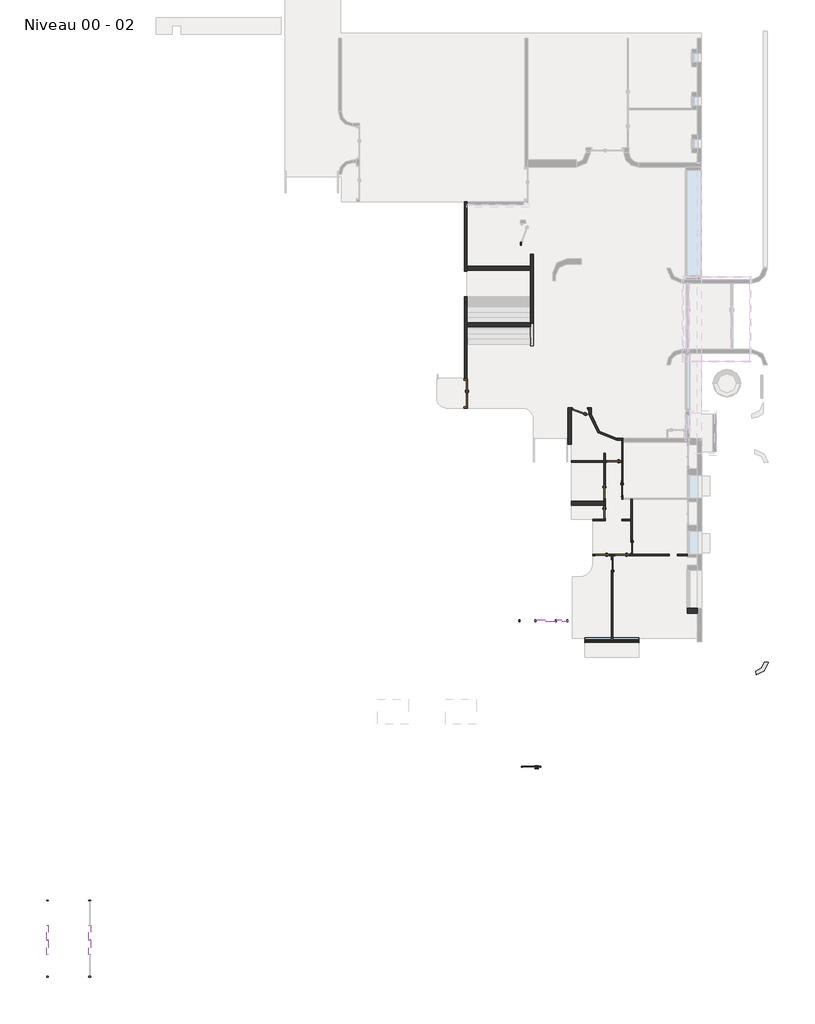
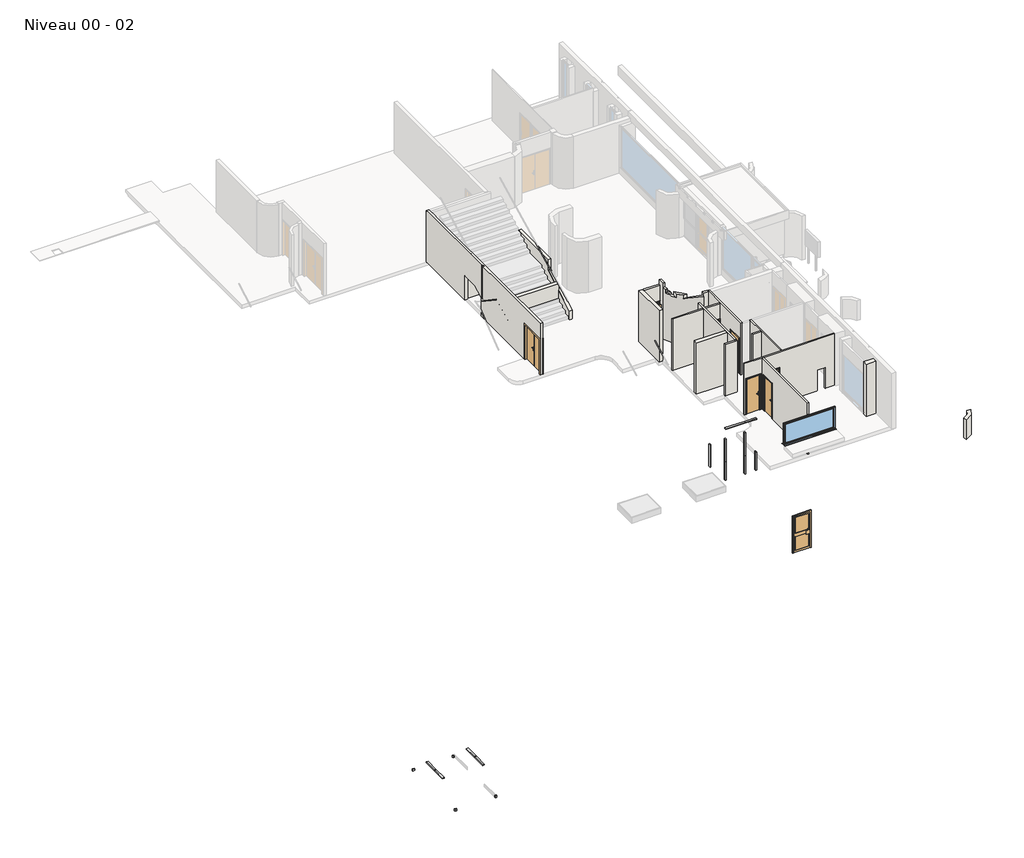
# One storey, part 1 of 6: 22 walls, 16 members, 11 doors, 1 window.
"""IFC4 building model written with IfcOpenShell, lengths in millimetres."""

from ifc_helpers import new_model, si_unit, point, frame, frame_2d, origin, place, context, project, spatial, polyline, circle_curve, trimmed, segment, composite_curve, outline, extrude, faceted_brep, transform, mapped, element, save
from ifc_brep_helpers import plane_surface, cylinder_surface, revolved_surface, advanced_brep
from components import door_0234ae46, door_50a5e481, door_d65dadfb, door_9741cc86, door_510859a6, door_0_93m_x_2_10m_03cb1a60, double_r_1_43m_x_2_04m_e512b263, meneau_rectangulaire_50_x_100mm_ef76ff4d, meneau_rectangulaire_50_x_100mm_260a92d2, meneau_rectangulaire_50_x_100mm_9988052a, meneau_rectangulaire_50_x_100mm_9c2ee2e1, meneau_rectangulaire_50_x_100mm_a95d30d4, meneau_rectangulaire_50_x_100mm_43c9efb0, meneau_rectangulaire_50_x_100mm_3de90236, meneau_rectangulaire_50_x_100mm_75cd286d, meneau_rectangulaire_50_x_100mm_6acf6161, meneau_rectangulaire_50_x_100mm_84950527, window_282_x_125_cm_d0343028

model = new_model("IFC4")

# Units and contexts
model_context = context("Model", 3, world=origin())
ifc_project = project(units=[si_unit("LENGTHUNIT", "METRE", prefix="MILLI")], contexts=[model_context])

# Site, building, storey
site = spatial("IfcSite", under=ifc_project)
building = spatial("IfcBuilding", under=site)
storey = spatial("IfcBuildingStorey", under=building, Name="Niveau 00 - 02", Elevation=893.3082742)

# Doors
placement = place(None, origin())
door_shape = door_0234ae46(model_context)
element("IfcDoor", 1, ObjectType="@_Int. Simple : @_PP (0.73m x 2.04m)", at=placement, inside=storey, context=model_context, shape_type="MappedRepresentation", body=[
    mapped(door_shape, transform((-1575.800494, -11566.3680999, 893.3082742), x_axis=(-1.0, 0.0, 0.0), y_axis=(0.0, -1.0, 0.0), z_axis=(0.0, 0.0, 1.0))),
])
element("IfcDoor", 2, ObjectType="@_Int. Simple : @_PP (0.73m x 2.04m)", at=placement, inside=storey, context=model_context, shape_type="MappedRepresentation", body=[
    mapped(door_shape, transform((-1092.6000149, -13032.7588228, 893.3082742), x_axis=(0.0, -1.0, 0.0), y_axis=(1.0, 0.0, 0.0), z_axis=(0.0, 0.0, 1.0))),
])
element("IfcDoor", 3, ObjectType="@_Int. Simple : @_PP (0.73m x 2.04m)", at=placement, inside=storey, context=model_context, shape_type="MappedRepresentation", body=[
    mapped(door_shape, transform((-2012.600015, -13195.3225488, 893.3082742), x_axis=(0.0, -1.0, 0.0), y_axis=(1.0, 0.0, 0.0), z_axis=(0.0, 0.0, 1.0))),
])
element("IfcDoor", 4, ObjectType="@_Int. Simple : @_PP (0.73m x 2.04m)", at=placement, inside=storey, context=model_context, shape_type="MappedRepresentation", body=[
    mapped(door_shape, transform((-1142.6256089, -16463.8474044, 893.3082742), x_axis=(-1.0, 0.0, 0.0), y_axis=(0.0, -1.0, 0.0), z_axis=(0.0, 0.0, 1.0))),
])
element("IfcDoor", 5, ObjectType="@_Int. Simple : @_PP (0.73m x 2.04m)", at=placement, inside=storey, context=model_context, shape_type="MappedRepresentation", body=[
    mapped(door_shape, transform((-2190.1476596, -16463.8474044, 893.3082742), x_axis=(-1.0, 0.0, 0.0), y_axis=(0.0, -1.0, 0.0), z_axis=(0.0, 0.0, 1.0))),
])
door_2_shape = door_50a5e481(model_context)
element("IfcDoor", 6, ObjectType="@_Int. Simple : @_PP (0.63m x 2.04m)", at=placement, inside=storey, context=model_context, shape_type="MappedRepresentation", body=[
    mapped(door_2_shape, transform((-2012.600015, -14260.3225488, 893.3082742), x_axis=(0.0, -1.0, 0.0), y_axis=(1.0, 0.0, 0.0), z_axis=(0.0, 0.0, 1.0))),
])
door_3_shape = door_d65dadfb(model_context)
element("IfcDoor", 7, ObjectType="@_Int. Simple : @_PP (0.73m x 2.04m)", at=placement, inside=storey, context=model_context, shape_type="MappedRepresentation", body=[
    mapped(door_3_shape, transform((-597.6697111, -16043.9180257, 893.3082742), x_axis=(0.0, -1.0, 0.0), y_axis=(1.0, 0.0, 0.0), z_axis=(0.0, 0.0, 1.0))),
])
door_4_shape = door_9741cc86(model_context)
element("IfcDoor", 8, ObjectType="@_Int. Simple : @_PP (0.73m x 2.04m)", at=placement, inside=storey, context=model_context, shape_type="MappedRepresentation", body=[
    mapped(door_4_shape, transform((-1619.7959861, -17016.2944858, 893.3082742), x_axis=(0.0, 1.0, 0.0), y_axis=(-1.0, 0.0, 0.0), z_axis=(0.0, 0.0, 1.0))),
])
door_5_shape = door_510859a6(model_context)
element("IfcDoor", 9, ObjectType="@_Int. Simple : @_PP (0.83m x 2.04m)", at=placement, inside=storey, context=model_context, shape_type="MappedRepresentation", body=[
    mapped(door_5_shape, transform((-3342.4222134, -8809.0543175, 893.3082742), x_axis=(-1.0, 0.0, 0.0), y_axis=(0.0, -1.0, 0.0), z_axis=(0.0, 0.0, 1.0))),
])
door_0_93m_x_2_10m_shape = door_0_93m_x_2_10m_03cb1a60(model_context)
element("IfcDoor", 10, ObjectType="PVC Panneau Vitré - Traverse : 0.93m x 2.10m", at=placement, inside=storey, context=model_context, shape_type="MappedRepresentation", body=[
    mapped(door_0_93m_x_2_10m_shape, transform((-5861.0863322, -27617.519909, 893.3082742), x_axis=(-1.0, 0.0, 0.0), y_axis=(0.0, -1.0, 0.0), z_axis=(0.0, 0.0, 1.0))),
])
double_r_1_43m_x_2_04m_shape = double_r_1_43m_x_2_04m_e512b263(model_context)
element("IfcDoor", 11, ObjectType="Double (R) : 1.43m x 2.04m", at=placement, inside=storey, context=model_context, shape_type="MappedRepresentation", body=[
    mapped(double_r_1_43m_x_2_04m_shape, transform((-9288.9891683, -8011.2578611, 893.3082742), x_axis=(0.0, 1.0, 0.0), y_axis=(-1.0, 0.0, 0.0), z_axis=(0.0, 0.0, 1.0))),
])

# Members
meneau_rectangulaire_50_x_100mm_shape = meneau_rectangulaire_50_x_100mm_ef76ff4d(model_context)
element("IfcMember", 12, ObjectType="Meneau rectangulaire : 50 x 100mm", at=placement, inside=storey, context=model_context, shape_type="MappedRepresentation", body=[
    mapped(meneau_rectangulaire_50_x_100mm_shape, transform((-6506.0863322, -19897.6865666, 1313.3082742), x_axis=(-1.0, 0.0, 0.0), y_axis=(0.0, 1.0, 0.0), z_axis=(0.0, 0.0, -1.0))),
])
meneau_rectangulaire_50_x_100mm_2_shape = meneau_rectangulaire_50_x_100mm_260a92d2(model_context)
element("IfcMember", 13, ObjectType="Meneau rectangulaire : 50 x 100mm", at=placement, inside=storey, context=model_context, shape_type="MappedRepresentation", body=[
    mapped(meneau_rectangulaire_50_x_100mm_2_shape, transform((-5638.9891738, -19897.6865666, 253.3082742), x_axis=(-1.0, 0.0, 0.0), y_axis=(0.0, 1.0, 0.0), z_axis=(0.0, 0.0, -1.0))),
])
meneau_rectangulaire_50_x_100mm_3_shape = meneau_rectangulaire_50_x_100mm_9988052a(model_context)
element("IfcMember", 14, ObjectType="Meneau rectangulaire : 50 x 100mm", at=placement, inside=storey, context=model_context, shape_type="MappedRepresentation", body=[
    mapped(meneau_rectangulaire_50_x_100mm_3_shape, transform((-4573.9186636, -19897.6865666, 1313.3082742), x_axis=(-1.0, 0.0, 0.0), y_axis=(0.0, 1.0, 0.0), z_axis=(0.0, 0.0, -1.0))),
])
element("IfcMember", 15, ObjectType="Meneau rectangulaire : 50 x 100mm", at=placement, inside=storey, context=model_context, shape_type="MappedRepresentation", body=[
    mapped(meneau_rectangulaire_50_x_100mm_3_shape, transform((-5638.9891738, -19897.6865666, 1313.3082742), x_axis=(-1.0, 0.0, 0.0), y_axis=(0.0, 1.0, 0.0), z_axis=(0.0, 0.0, -1.0))),
])
meneau_rectangulaire_50_x_100mm_4_shape = meneau_rectangulaire_50_x_100mm_9c2ee2e1(model_context)
element("IfcMember", 16, ObjectType="Meneau rectangulaire : 50 x 100mm", at=placement, inside=storey, context=model_context, shape_type="MappedRepresentation", body=[
    mapped(meneau_rectangulaire_50_x_100mm_4_shape, transform((-5638.9891738, -19897.6865666, 3243.3082742), x_axis=(0.0, 0.0, 1.0), y_axis=(0.0, 1.0, 0.0), z_axis=(-1.0, 0.0, 0.0))),
])
element("IfcMember", 17, ObjectType="Meneau rectangulaire : 50 x 100mm", at=placement, inside=storey, context=model_context, shape_type="MappedRepresentation", body=[
    mapped(meneau_rectangulaire_50_x_100mm_2_shape, transform((-4573.9186636, -19897.6865666, 253.3082742), x_axis=(-1.0, 0.0, 0.0), y_axis=(0.0, 1.0, 0.0), z_axis=(0.0, 0.0, -1.0))),
])
meneau_rectangulaire_50_x_100mm_5_shape = meneau_rectangulaire_50_x_100mm_a95d30d4(model_context)
element("IfcMember", 18, ObjectType="Meneau rectangulaire : 50 x 100mm", at=placement, inside=storey, context=model_context, shape_type="MappedRepresentation", body=[
    mapped(meneau_rectangulaire_50_x_100mm_5_shape, transform((-3943.9891777, -19897.6865666, 1313.3082742), x_axis=(1.0, 0.0, 0.0), y_axis=(0.0, 1.0, 0.0), z_axis=(0.0, 0.0, 1.0))),
])
meneau_rectangulaire_50_x_100mm_6_shape = meneau_rectangulaire_50_x_100mm_43c9efb0(model_context)
element("IfcMember", 19, ObjectType="Meneau rectangulaire : 50 x 100mm", at=placement, inside=storey, context=model_context, shape_type="MappedRepresentation", body=[
    mapped(meneau_rectangulaire_50_x_100mm_6_shape, transform((-28980.0011024, -37370.6844783, 2513.8103147), x_axis=(0.0, 0.0, 1.0), y_axis=(-1.0, 0.0, 0.0), z_axis=(0.0, -1.0, 0.0))),
])
element("IfcMember", 20, ObjectType="Meneau rectangulaire : 50 x 100mm", at=placement, inside=storey, context=model_context, shape_type="MappedRepresentation", body=[
    mapped(meneau_rectangulaire_50_x_100mm_6_shape, transform((-31180.0011024, -37370.6844783, 2513.8103147), x_axis=(0.0, 0.0, 1.0), y_axis=(-1.0, 0.0, 0.0), z_axis=(0.0, -1.0, 0.0))),
])
meneau_rectangulaire_50_x_100mm_7_shape = meneau_rectangulaire_50_x_100mm_3de90236(model_context)
element("IfcMember", 21, ObjectType="Meneau rectangulaire : 50 x 100mm", at=placement, inside=storey, context=model_context, shape_type="MappedRepresentation", body=[
    mapped(meneau_rectangulaire_50_x_100mm_7_shape, transform((-28980.0011024, -34509.0543071, 1313.3082742), x_axis=(0.0, 1.0, 0.0), y_axis=(-1.0, 0.0, 0.0), z_axis=(0.0, 0.0, 1.0))),
])
element("IfcMember", 22, ObjectType="Meneau rectangulaire : 50 x 100mm", at=placement, inside=storey, context=model_context, shape_type="MappedRepresentation", body=[
    mapped(meneau_rectangulaire_50_x_100mm_7_shape, transform((-31180.0011024, -34509.0543071, 1313.3082742), x_axis=(0.0, 1.0, 0.0), y_axis=(-1.0, 0.0, 0.0), z_axis=(0.0, 0.0, 1.0))),
])
meneau_rectangulaire_50_x_100mm_8_shape = meneau_rectangulaire_50_x_100mm_75cd286d(model_context)
element("IfcMember", 23, ObjectType="Meneau rectangulaire : 50 x 100mm", at=placement, inside=storey, context=model_context, shape_type="MappedRepresentation", body=[
    mapped(meneau_rectangulaire_50_x_100mm_8_shape, transform((-28980.0011024, -36574.054307, 2513.8103147), x_axis=(0.0, 0.0, 1.0), y_axis=(-1.0, 0.0, 0.0), z_axis=(0.0, -1.0, 0.0))),
])
element("IfcMember", 24, ObjectType="Meneau rectangulaire : 50 x 100mm", at=placement, inside=storey, context=model_context, shape_type="MappedRepresentation", body=[
    mapped(meneau_rectangulaire_50_x_100mm_8_shape, transform((-31180.0011024, -36574.054307, 2513.8103147), x_axis=(0.0, 0.0, 1.0), y_axis=(-1.0, 0.0, 0.0), z_axis=(0.0, -1.0, 0.0))),
])
meneau_rectangulaire_50_x_100mm_9_shape = meneau_rectangulaire_50_x_100mm_6acf6161(model_context)
element("IfcMember", 25, ObjectType="Meneau rectangulaire : 50 x 100mm", at=placement, inside=storey, context=model_context, shape_type="MappedRepresentation", body=[
    mapped(meneau_rectangulaire_50_x_100mm_9_shape, transform((-28980.0011024, -38559.0543071, 1313.3082742), x_axis=(0.0, -1.0, 0.0), y_axis=(-1.0, 0.0, 0.0), z_axis=(0.0, 0.0, -1.0))),
])
element("IfcMember", 26, ObjectType="Meneau rectangulaire : 50 x 100mm", at=placement, inside=storey, context=model_context, shape_type="MappedRepresentation", body=[
    mapped(meneau_rectangulaire_50_x_100mm_9_shape, transform((-31180.0011024, -38559.0543071, 1313.3082742), x_axis=(0.0, -1.0, 0.0), y_axis=(-1.0, 0.0, 0.0), z_axis=(0.0, 0.0, -1.0))),
])
meneau_rectangulaire_50_x_100mm_10_shape = meneau_rectangulaire_50_x_100mm_84950527(model_context)
element("IfcMember", 27, ObjectType="Meneau rectangulaire : 50 x 100mm", at=placement, inside=storey, context=model_context, shape_type="MappedRepresentation", body=[
    mapped(meneau_rectangulaire_50_x_100mm_10_shape, transform((-4573.9186636, -19897.6865666, 3243.3082742), x_axis=(0.0, 0.0, 1.0), y_axis=(0.0, 1.0, 0.0), z_axis=(-1.0, 0.0, 0.0))),
])

# Walls
element("IfcWall", 28, ObjectType="@_Générique - Int. 150 mm", at=placement, inside=storey, context=model_context, shape_type="AdvancedBrep", body=[
    advanced_brep(
    [(-6311.1268419, -258.0835845, 2893.3082742), (-5893.989171, -720.1841314, 2893.3082742), (-5743.989171, -717.9152866, 2893.3082742), (-6311.1268419, -107.0420031, 2893.3082742), (-6311.1268419, -253.7289625, 2893.3082742), (-6311.1268419, -258.0835845, 893.3082742), (-6311.1268419, -107.0420031, 893.3082742), (-5743.989171, -717.9152866, 893.3082742), (-5893.989171, -720.1841314, 893.3082742)],
    [
        (0, 1, circle_curve(frame((-6375.8366042, -735.8221567, 2893.3082742), z_axis=(0.0, 0.0, -1.0), x_axis=(1.0, 0.0, 0.0)), 482.101127)),
        (1, 2),
        (2, 3, circle_curve(frame((-6375.8366042, -735.8221567, 2893.3082742), z_axis=(0.0, 0.0, 1.0), x_axis=(1.0, 0.0, 0.0)), 632.101127)),
        (3, 4),
        (4, 0),
        (5, 6),
        (6, 7, circle_curve(frame((-6375.8366042, -735.8221567, 893.3082742), z_axis=(0.0, 0.0, -1.0), x_axis=(1.0, 0.0, 0.0)), 632.101127)),
        (7, 8),
        (8, 5, circle_curve(frame((-6375.8366042, -735.8221567, 893.3082742), z_axis=(0.0, 0.0, 1.0), x_axis=(1.0, 0.0, 0.0)), 482.101127)),
        (0, 5),
        (8, 1),
        (2, 7),
        (6, 3),
    ],
    [
        plane_surface(frame((-5893.7354771, -735.8221567, 2893.3082742), z_axis=(0.0, 0.0, 1.0), x_axis=(0.0, -1.0, 0.0))),
        plane_surface(frame((-5893.7354771, -735.8221567, 893.3082742), z_axis=(0.0, 0.0, -1.0), x_axis=(0.0, 1.0, 0.0))),
        revolved_surface(polyline([(-5893.7354772, -735.8221567, 893.3082742), (-5893.7354772, -735.8221567, 2893.3082742)]), (-6375.8366042, -735.8221567, 893.3082742), (0.0, 0.0, -1.0)),
        cylinder_surface(frame((-6375.8366042, -735.8221567, 893.3082742), z_axis=(0.0, 0.0, 1.0), x_axis=(1.0, 0.0, 0.0)), 632.101127),
        plane_surface(frame((-5893.989171, -720.1841314, 893.3082742), z_axis=(0.015123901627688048, -0.9998856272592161, 0.0), x_axis=(0.9998856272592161, 0.015123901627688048, 0.0))),
        plane_surface(frame((-6311.1268419, 971.271037, 893.3082742), z_axis=(-1.0, 0.0, 0.0), x_axis=(0.0, 1.0, 0.0))),
    ],
    [
        (0, [[1, 2, 3, 4, 5]]),
        (1, [[6, 7, 8, 9]]),
        (2, [[-1, 10, -9, 11]]),
        (3, [[-3, 12, -7, 13]]),
        (4, [[-2, -11, -8, -12]]),
        (5, [[-5, -4, -13, -6, -10]]),
    ],
),
])
element("IfcWall", 29, ObjectType="@_Générique - Int. 150 mm", at=placement, inside=storey, context=model_context, shape_type="Brep", body=[
    faceted_brep([(-6381.1268419, -103.7289625, 3235.1676502), (-6381.1268419, -103.7289625, 893.3082742), (-6416.4826139, -103.7289625, 893.3082742), (-6416.4826139, -103.7289625, 3235.1676502), (-6381.1268419, -253.7289625, 893.3082742), (-6381.1268419, -253.7289625, 2893.3082742), (-6381.1268419, -253.7289625, 3043.9840697), (-6381.1268419, -253.7289625, 3235.1676502), (-6416.4826139, -253.7289625, 3235.1676502), (-6416.4826139, -253.7289625, 893.3082742)], [[[0, 1, 2, 3]], [[4, 5, 6, 7, 8, 9]], [[2, 1, 4, 9]], [[3, 2, 9, 8]], [[0, 3, 8, 7]], [[0, 7, 6, 5, 4, 1]]]),
])
element("IfcWall", 30, ObjectType="@_Générique - Int. 150 mm", at=placement, inside=storey, context=model_context, shape_type="Brep", body=[
    faceted_brep([(-5893.989171, -720.1841314, 893.3082742), (-5893.989171, -1359.0543165, 893.3082742), (-5893.989171, -1559.0543165, 893.3082742), (-5893.989171, -5527.214693, 893.3082742), (-5893.989171, -5527.214693, 1424.6373398), (-5893.989171, -3528.9194311, 2578.3536473), (-5893.989171, -3528.9194311, 3195.2244093), (-5893.989171, -720.1841314, 3195.2244093), (-5893.989171, -720.1841314, 2893.3082742), (-5743.989171, -5527.214693, 893.3082742), (-5743.989171, -717.9152866, 893.3082742), (-5743.989171, -717.9152866, 2893.3082742), (-5743.989171, -717.9152866, 3195.2244093), (-5743.989171, -3528.9194311, 3195.2244093), (-5743.989171, -3528.9194311, 2578.3536473), (-5743.989171, -5527.214693, 1424.6373398)], [[[0, 1, 2, 3, 4, 5, 6, 7, 8]], [[9, 10, 11, 12, 13, 14, 15]], [[7, 12, 11, 10, 0, 8]], [[3, 2, 1, 0, 10, 9]], [[4, 3, 9, 15]], [[7, 6, 13, 12]], [[5, 4, 15, 14]], [[6, 5, 14, 13]]]),
])
element("IfcWall", 31, ObjectType="@_Générique - Int. 100 mm", at=placement, inside=storey, context=model_context, shape_type="Brep", body=[
    faceted_brep([(-3743.9891754, -8759.0543175, 3871.8727639), (-3693.9891754, -8759.0543175, 3871.8727639), (-3623.9891754, -8759.0543175, 3871.8727639), (-2842.3456114, -8759.0543175, 3871.8727639), (-2842.3456114, -8759.0543175, 893.3082742), (-2857.4222134, -8759.0543175, 893.3082742), (-2857.4222134, -8759.0543175, 2968.3082742), (-3743.9891754, -8759.0543175, 2968.3082742), (-2842.3456114, -8859.0543175, 3871.8727639), (-3743.9891754, -8859.0543175, 3871.8727639), (-3743.9891754, -8859.0543175, 2968.3082742), (-2857.4222134, -8859.0543175, 2968.3082742), (-2857.4222134, -8859.0543175, 893.3082742), (-2842.3456114, -8859.0543175, 893.3082742)], [[[0, 1, 2, 3, 4, 5, 6, 7]], [[8, 9, 10, 11, 12, 13]], [[4, 13, 12, 5]], [[3, 2, 1, 0, 9, 8]], [[9, 0, 7, 10]], [[11, 6, 5, 12]], [[6, 11, 10, 7]], [[4, 3, 8, 13]]]),
])
element("IfcWall", 32, ObjectType="@_Générique - Int. 120 mm", at=placement, inside=storey, context=model_context, shape_type="Brep", body=[
    faceted_brep([(-1375.6774451, -10466.6335399, 893.3082742), (-1127.6000149, -10466.6335399, 893.3082742), (-1057.6000149, -10466.6335399, 893.3082742), (-1057.6000149, -10466.6335399, 3871.8727639), (-1375.6774451, -10466.6335399, 3871.8727639), (-1375.6774451, -10466.6335399, 3673.3082742), (-1375.6774451, -10346.6335399, 893.3082742), (-1375.6774451, -10346.6335399, 3673.3082742), (-1375.6774451, -10346.6335399, 3871.8727639), (-1057.6000149, -10346.6335399, 3871.8727639), (-1057.6000149, -10346.6335399, 893.3082742)], [[[0, 1, 2, 3, 4, 5]], [[6, 7, 8, 9, 10]], [[2, 1, 0, 6, 10]], [[0, 5, 4, 8, 7, 6]], [[4, 3, 9, 8]], [[3, 2, 10, 9]]]),
])
element("IfcWall", 33, ObjectType="Mur EXE 200- Hach", at=placement, inside=storey, context=model_context, shape_type="SweptSolid", body=[
    extrude(outline(composite_curve([segment(polyline([(6344.2383271, -22063.5552573), (6544.2383271, -22074.3330899)]), True, "CONTINUOUS"), segment(trimmed(circle_curve(frame_2d((5806.3109158, -22000.4141736)), 741.6204356), [point((6544.2383271, -22074.3330899))], [point((5922.5130184, -22732.8743717))], False, "CARTESIAN"), True, "CONTINUOUS"), segment(polyline([(5922.5130184, -22732.8743717), (5905.5018109, -22532.8743717)]), True, "CONTINUOUS"), segment(trimmed(circle_curve(frame_2d((5806.3109158, -22000.4141736)), 541.6204356), [point((5905.5018109, -22532.8743717))], [point((6344.2383271, -22063.5552573))], True, "CARTESIAN"), True, "CONTINUOUS")], self_intersect=False)), frame((0.0, 0.0, 258.5326836), z_axis=(0.0, 0.0, 1.0), x_axis=(1.0, 0.0, 0.0)), (0.0, 0.0, 1.0), 1135.7190921),
])
element("IfcWall", 34, ObjectType="@_Générique - Int. 120 mm", at=placement, inside=storey, context=model_context, shape_type="AdvancedBrep", body=[
    advanced_brep(
    [(-1375.6774451, -10466.6335398, 893.3082742), (-2842.3456114, -9095.5501215, 893.3082742), (-2722.3456114, -9091.4219886, 893.3082742), (-1375.6774451, -10346.6335398, 893.3082742), (-1375.6774451, -10466.6335398, 3673.3082742), (-2316.8635168, -10125.822974, 3673.3082742), (-2316.8635168, -10125.822974, 3871.8727639), (-2554.5797272, -9874.7505076, 3871.8727639), (-2554.5797272, -9874.7505076, 3673.3082742), (-2689.5797272, -9655.8457916, 3673.3082742), (-2689.5797272, -9655.8457916, 3871.8727639), (-2773.1005021, -9452.822974, 3871.8727639), (-2773.1005021, -9452.822974, 3673.3082742), (-2808.3442998, -9325.822974, 3673.3082742), (-2808.3442998, -9325.822974, 3871.8727639), (-2842.3456114, -9095.5501215, 3871.8727639), (-1375.6774451, -10346.6335398, 3673.3082742), (-2722.3456114, -9091.4219886, 3871.8727639), (-2696.1310102, -9277.5292189, 3871.8727639), (-2696.1310102, -9277.5292189, 3673.3082742), (-2554.5797272, -9654.424851, 3673.3082742), (-2554.5797272, -9654.424851, 3871.8727639), (-2115.5633968, -10125.822974, 3871.8727639), (-2115.5633968, -10125.822974, 3673.3082742), (-2689.5797272, -9532.822974, 3871.8727639), (-2769.5797272, -9452.822974, 3871.8727639), (-2769.5797272, -9325.822974, 3871.8727639), (-2769.5797272, -9452.822974, 3673.3082742), (-2689.5797272, -9532.822974, 3673.3082742), (-2769.5797272, -9325.822974, 3673.3082742)],
    [
        (0, 1, circle_curve(frame((-1375.6774451, -8996.6335398, 893.3082742), z_axis=(0.0, 0.0, -1.0), x_axis=(1.0, 0.0, 0.0)), 1470.0)),
        (1, 2),
        (2, 3, circle_curve(frame((-1375.6774451, -8996.6335398, 893.3082742), z_axis=(0.0, 0.0, 1.0), x_axis=(1.0, 0.0, 0.0)), 1350.0)),
        (3, 0),
        (0, 4),
        (4, 5, circle_curve(frame((-1375.6774451, -8996.6335398, 3673.3082742), z_axis=(0.0, 0.0, -1.0), x_axis=(1.0, 0.0, 0.0)), 1470.0)),
        (5, 6),
        (6, 7, circle_curve(frame((-1375.6774451, -8996.6335398, 3871.8727639), z_axis=(0.0, 0.0, -1.0), x_axis=(1.0, 0.0, 0.0)), 1470.0)),
        (7, 8),
        (8, 9, circle_curve(frame((-1375.6774451, -8996.6335398, 3673.3082742), z_axis=(0.0, 0.0, -1.0), x_axis=(1.0, 0.0, 0.0)), 1470.0)),
        (9, 10),
        (10, 11, circle_curve(frame((-1375.6774451, -8996.6335398, 3871.8727639), z_axis=(0.0, 0.0, -1.0), x_axis=(1.0, 0.0, 0.0)), 1470.0)),
        (11, 12),
        (12, 13, circle_curve(frame((-1375.6774451, -8996.6335398, 3673.3082742), z_axis=(0.0, 0.0, -1.0), x_axis=(1.0, 0.0, 0.0)), 1470.0)),
        (13, 14),
        (14, 15, circle_curve(frame((-1375.6774451, -8996.6335398, 3871.8727639), z_axis=(0.0, 0.0, -1.0), x_axis=(1.0, 0.0, 0.0)), 1470.0)),
        (15, 1),
        (3, 16),
        (16, 4),
        (2, 17),
        (17, 18, circle_curve(frame((-1375.6774451, -8996.6335398, 3871.8727639), z_axis=(0.0, 0.0, 1.0), x_axis=(1.0, 0.0, 0.0)), 1350.0)),
        (18, 19),
        (19, 20, circle_curve(frame((-1375.6774451, -8996.6335398, 3673.3082742), z_axis=(0.0, 0.0, 1.0), x_axis=(1.0, 0.0, 0.0)), 1350.0)),
        (20, 21),
        (21, 22, circle_curve(frame((-1375.6774451, -8996.6335398, 3871.8727639), z_axis=(0.0, 0.0, 1.0), x_axis=(1.0, 0.0, 0.0)), 1350.0)),
        (22, 23),
        (23, 16, circle_curve(frame((-1375.6774451, -8996.6335398, 3673.3082742), z_axis=(0.0, 0.0, 1.0), x_axis=(1.0, 0.0, 0.0)), 1350.0)),
        (10, 24),
        (24, 25, circle_curve(frame((-2769.5797272, -9532.822974, 3871.8727639), z_axis=(0.0, 0.0, 1.0), x_axis=(1.0, 0.0, 0.0)), 80.0)),
        (25, 11),
        (6, 22),
        (21, 7),
        (17, 15),
        (14, 26),
        (26, 18, circle_curve(frame((-2769.5797272, -9245.822974, 3871.8727639), z_axis=(0.0, 0.0, 1.0), x_axis=(1.0, 0.0, 0.0)), 80.0)),
        (27, 28, circle_curve(frame((-2769.5797272, -9532.822974, 3673.3082742), z_axis=(0.0, 0.0, -1.0), x_axis=(1.0, 0.0, 0.0)), 80.0)),
        (28, 9),
        (8, 20),
        (19, 29, circle_curve(frame((-2769.5797272, -9245.822974, 3673.3082742), z_axis=(0.0, 0.0, -1.0), x_axis=(1.0, 0.0, 0.0)), 80.0)),
        (29, 13),
        (12, 27),
        (23, 5),
        (26, 29),
        (28, 24),
        (27, 25),
    ],
    [
        plane_surface(frame((94.3225549, -8996.6335398, 893.3082742), z_axis=(0.0, 0.0, -1.0), x_axis=(0.0, -1.0, 0.0))),
        cylinder_surface(frame((-1375.6774451, -8996.6335398, 893.3082742), z_axis=(0.0, 0.0, 1.0), x_axis=(1.0, 0.0, 0.0)), 1470.0),
        plane_surface(frame((-1375.6774451, -10466.6335398, 3871.8727639), z_axis=(1.0, 0.0, 0.0), x_axis=(0.0, 0.0, -1.0))),
        revolved_surface(polyline([(-25.677445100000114, -8996.6335398, 893.3082742), (-25.677445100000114, -8996.6335398, 3871.8727639)]), (-1375.6774451, -8996.6335398, 893.3082742), (0.0, 0.0, -1.0)),
        plane_surface(frame((-25843.9891731, 10670.8848595, 3871.8727639), z_axis=(0.0, 0.0, 1.0), x_axis=(0.0, 1.0, 0.0))),
        plane_surface(frame((2847.4682686, -10466.6335398, 3673.3082742), z_axis=(0.0, 0.0, 1.0), x_axis=(0.0, -1.0, 0.0))),
        cylinder_surface(frame((-2769.5797272, -9245.822974, 3953.3082742), z_axis=(0.0, 0.0, 1.0), x_axis=(1.0, 0.0, 0.0)), 80.0),
        plane_surface(frame((-3274.5797272, -9325.822974, 3673.3082742), z_axis=(0.0, -1.0, 0.0), x_axis=(0.0, 0.0, 1.0))),
        plane_surface(frame((-2689.5797272, -10045.822974, 3673.3082742), z_axis=(1.0, 0.0, 0.0), x_axis=(0.0, 0.0, 1.0))),
        cylinder_surface(frame((-2769.5797272, -9532.822974, 3953.3082742), z_axis=(0.0, 0.0, 1.0), x_axis=(1.0, 0.0, 0.0)), 80.0),
        plane_surface(frame((-2769.5797272, -9452.822974, 3673.3082742), z_axis=(0.0, 1.0, 0.0), x_axis=(0.0, 0.0, 1.0))),
        plane_surface(frame((-2554.5797272, -9532.822974, 3673.3082742), z_axis=(-1.0, 0.0, 0.0), x_axis=(0.0, 0.0, 1.0))),
        plane_surface(frame((-2474.5797272, -10125.822974, 3673.3082742), z_axis=(0.0, -1.0, 0.0), x_axis=(0.0, 0.0, 1.0))),
        plane_surface(frame((-2722.3456114, -9091.4219886, 893.3082742), z_axis=(-0.0343807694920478, 0.9994088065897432, 0.0), x_axis=(-0.9994088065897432, -0.0343807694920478, 0.0))),
    ],
    [
        (0, [[1, 2, 3, 4]]),
        (1, [[-1, 5, 6, 7, 8, 9, 10, 11, 12, 13, 14, 15, 16, 17]]),
        (2, [[-4, 18, 19, -5]]),
        (3, [[-3, 20, 21, 22, 23, 24, 25, 26, 27, -18]]),
        (4, [[-12, 28, 29, 30]]),
        (4, [[-8, 31, -25, 32]]),
        (4, [[33, -16, 34, 35, -21]]),
        (5, [[36, 37, -10, 38, -23, 39, 40, -14, 41]]),
        (5, [[42, -6, -19, -27]]),
        (6, [[-39, -22, -35, 43]]),
        (7, [[-40, -43, -34, -15]]),
        (8, [[-37, 44, -28, -11]]),
        (9, [[-36, 45, -29, -44]]),
        (10, [[-41, -13, -30, -45]]),
        (11, [[-38, -9, -32, -24]]),
        (12, [[-42, -26, -31, -7]]),
        (13, [[-20, -2, -17, -33]]),
    ],
),
])
element("IfcWall", 35, ObjectType="@_Générique - Int. 80 mm", at=placement, inside=storey, context=model_context, shape_type="Brep", body=[
    faceted_brep([(-2632.6697104, -14670.322552, 893.3082742), (-1977.600015, -14670.322552, 893.3082742), (-1977.600015, -14670.322552, 3871.8727639), (-2632.6697104, -14670.322552, 3871.8727639), (-2632.6697104, -14590.322552, 893.3082742), (-2632.6697104, -14590.322552, 3871.8727639), (-1977.600015, -14590.322552, 3871.8727639), (-1977.600015, -14590.322552, 893.3082742), (-2047.600015, -14590.322552, 893.3082742)], [[[0, 1, 2, 3]], [[4, 5, 6, 7, 8]], [[1, 0, 4, 8, 7]], [[2, 1, 7, 6]], [[3, 2, 6, 5]], [[0, 3, 5, 4]]]),
])
element("IfcWall", 36, ObjectType="@_Générique - Int. 70 mm", at=placement, inside=storey, context=model_context, shape_type="Brep", body=[
    faceted_brep([(-2047.600015, -14590.322552, 3921.8727639), (-2047.600015, -11129.0698778, 3921.8727639), (-2047.600015, -11129.0698778, 893.3082742), (-2047.600015, -11531.3680999, 893.3082742), (-2047.600015, -11601.3680999, 893.3082742), (-2047.600015, -12760.3225488, 893.3082742), (-2047.600015, -12760.3225488, 2968.3082742), (-2047.600015, -13560.3225488, 2968.3082742), (-2047.600015, -13560.3225488, 893.3082742), (-2047.600015, -13660.3225488, 893.3082742), (-2047.600015, -13860.3225488, 893.3082742), (-2047.600015, -13875.3225488, 893.3082742), (-2047.600015, -13875.3225488, 2968.3082742), (-2047.600015, -14575.3225488, 2968.3082742), (-2047.600015, -14575.3225488, 893.3082742), (-2047.600015, -14590.322552, 893.3082742), (-1977.600015, -11129.0698778, 3921.8727639), (-1977.600015, -14590.322552, 3921.8727639), (-1977.600015, -14590.322552, 3871.8727639), (-1977.600015, -14590.322552, 893.3082742), (-1977.600015, -14575.3225488, 893.3082742), (-1977.600015, -14575.3225488, 2968.3082742), (-1977.600015, -13875.3225488, 2968.3082742), (-1977.600015, -13875.3225488, 893.3082742), (-1977.600015, -13560.3225488, 893.3082742), (-1977.600015, -13560.3225488, 2968.3082742), (-1977.600015, -12760.3225488, 2968.3082742), (-1977.600015, -12760.3225488, 893.3082742), (-1977.600015, -11601.3680999, 893.3082742), (-1977.600015, -11531.3680999, 893.3082742), (-1977.600015, -11129.0698778, 893.3082742)], [[[0, 1, 2, 3, 4, 5, 6, 7, 8, 9, 10, 11, 12, 13, 14, 15]], [[16, 17, 18, 19, 20, 21, 22, 23, 24, 25, 26, 27, 28, 29, 30]], [[2, 30, 29, 28, 27, 5, 4, 3]], [[8, 24, 23, 11, 10, 9]], [[19, 15, 14, 20]], [[1, 0, 17, 16]], [[2, 1, 16, 30]], [[0, 15, 19, 18, 17]], [[8, 7, 25, 24]], [[6, 5, 27, 26]], [[13, 21, 20, 14]], [[22, 12, 11, 23]], [[6, 26, 25, 7]], [[12, 22, 21, 13]]]),
])
element("IfcWall", 37, ObjectType="@_Générique - Int. 70 mm", at=placement, inside=storey, context=model_context, shape_type="SweptSolid", body=[
    extrude(outline(polyline([(-3743.9891754, -11601.3680999), (-3743.9891754, -11531.3680999), (-2047.600015, -11531.3680999), (-2047.600015, -11601.3680999), (-3743.9891754, -11601.3680999)])), frame((0.0, 0.0, 893.3082742), z_axis=(0.0, 0.0, 1.0), x_axis=(1.0, 0.0, 0.0)), (0.0, 0.0, 1.0), 2978.5644896),
    extrude(outline(polyline([(893.3082742, -1127.6000149), (3871.8727639, -1127.6000149), (3871.8727639, -1977.600015), (893.3082742, -1977.600015), (893.3082742, -1940.800494), (2968.3082742, -1940.800494), (2968.3082742, -1140.800494), (893.3082742, -1140.800494), (893.3082742, -1127.6000149)])), frame((0.0, -11601.3680999, 0.0), z_axis=(0.0, 1.0, 0.0), x_axis=(0.0, 0.0, 1.0)), (0.0, 0.0, 1.0), 70.0),
])
element("IfcWall", 38, ObjectType="@_Générique - Int. 70 mm", at=placement, inside=storey, context=model_context, shape_type="Brep", body=[
    faceted_brep([(-1127.6000149, -13552.9158895, 3921.8727639), (-1127.6000149, -10466.6335399, 3921.8727639), (-1127.6000149, -10466.6335399, 893.3082742), (-1127.6000149, -11531.3680999, 893.3082742), (-1127.6000149, -11601.3680999, 893.3082742), (-1127.6000149, -12597.7588228, 893.3082742), (-1127.6000149, -12597.7588228, 2968.3082742), (-1127.6000149, -13397.7588228, 2968.3082742), (-1127.6000149, -13397.7588228, 893.3082742), (-1127.6000149, -13552.9158895, 893.3082742), (-1057.6000149, -10466.6335399, 3921.8727639), (-1057.6000149, -13552.9158895, 3921.8727639), (-1057.6000149, -13552.9158895, 3871.8727639), (-1057.6000149, -13552.9158895, 893.3082742), (-1057.6000149, -13482.9158895, 893.3082742), (-1057.6000149, -13397.7588228, 893.3082742), (-1057.6000149, -13397.7588228, 2968.3082742), (-1057.6000149, -12597.7588228, 2968.3082742), (-1057.6000149, -12597.7588228, 893.3082742), (-1057.6000149, -10466.6335399, 893.3082742), (-1057.6000149, -10466.6335399, 3871.8727639)], [[[0, 1, 2, 3, 4, 5, 6, 7, 8, 9]], [[10, 11, 12, 13, 14, 15, 16, 17, 18, 19, 20]], [[13, 9, 8, 15, 14]], [[2, 19, 18, 5, 4, 3]], [[1, 0, 11, 10]], [[0, 9, 13, 12, 11]], [[7, 16, 15, 8]], [[17, 6, 5, 18]], [[6, 17, 16, 7]], [[2, 1, 10, 20, 19]]]),
])
element("IfcWall", 39, ObjectType="@_Générique - Int. 70 mm", at=placement, inside=storey, context=model_context, shape_type="Brep", body=[
    faceted_brep([(-632.6697111, -16428.8474044, 3921.8727639), (-632.6697111, -14670.3225539, 3921.8727639), (-632.6697111, -14590.3225539, 3921.8727639), (-632.6697111, -13552.9158895, 3921.8727639), (-632.6697111, -13552.9158895, 893.3082742), (-632.6697111, -14590.3225539, 893.3082742), (-632.6697111, -14670.3225539, 893.3082742), (-632.6697111, -15608.9180257, 893.3082742), (-632.6697111, -15608.9180257, 2968.3082742), (-632.6697111, -16408.9180257, 2968.3082742), (-632.6697111, -16408.9180257, 893.3082742), (-632.6697111, -16428.8474044, 893.3082742), (-562.6697111, -13552.9158895, 3921.8727639), (-562.6697111, -16428.8474044, 3921.8727639), (-562.6697111, -16428.8474044, 893.3082742), (-562.6697111, -16408.9180257, 893.3082742), (-562.6697111, -16408.9180257, 2968.3082742), (-562.6697111, -15608.9180257, 2968.3082742), (-562.6697111, -15608.9180257, 893.3082742), (-562.6697111, -13552.9158895, 893.3082742)], [[[0, 1, 2, 3, 4, 5, 6, 7, 8, 9, 10, 11]], [[12, 13, 14, 15, 16, 17, 18, 19]], [[4, 19, 18, 7, 6, 5]], [[14, 11, 10, 15]], [[3, 2, 1, 0, 13, 12]], [[4, 3, 12, 19]], [[17, 8, 7, 18]], [[9, 16, 15, 10]], [[0, 11, 14, 13]], [[8, 17, 16, 9]]]),
])
element("IfcWall", 40, ObjectType="@_Générique - Int. 80 mm", at=placement, inside=storey, context=model_context, shape_type="SweptSolid", body=[
    extrude(outline(polyline([(-1127.6000157, -14590.3225539), (-632.6697111, -14590.3225539), (-632.6697111, -14670.3225539), (-1127.6000157, -14670.3225539), (-1127.6000157, -14590.3225539)])), frame((0.0, 0.0, 893.3082742), z_axis=(0.0, 0.0, 1.0), x_axis=(1.0, 0.0, 0.0)), (0.0, 0.0, 1.0), 3028.5644896),
])
element("IfcWall", 41, ObjectType="@_Générique - Int. 70 mm", at=placement, inside=storey, context=model_context, shape_type="Brep", body=[
    faceted_brep([(-2632.6697104, -16428.8474044, 893.3082742), (-2632.6697104, -16428.8474044, 3871.8727639), (2317.4682686, -16428.8474044, 3871.8727639), (2317.4682686, -16428.8474044, 3143.3082742), (2317.4682686, -16428.8474044, 1893.3082742), (2317.4682686, -16428.8474044, 893.3082742), (1788.4345602, -16428.8474044, 893.3082742), (1788.4345602, -16428.8474044, 2100.0), (1368.4345602, -16428.8474044, 2100.0), (1368.4345602, -16428.8474044, 893.3082742), (-562.6697111, -16428.8474044, 893.3082742), (-632.6697111, -16428.8474044, 893.3082742), (-707.6256089, -16428.8474044, 893.3082742), (-707.6256089, -16428.8474044, 2968.3082742), (-1507.6256089, -16428.8474044, 2968.3082742), (-1507.6256089, -16428.8474044, 893.3082742), (-1755.1476596, -16428.8474044, 893.3082742), (-1755.1476596, -16428.8474044, 2968.3082742), (-2555.1476596, -16428.8474044, 2968.3082742), (-2555.1476596, -16428.8474044, 893.3082742), (-2632.6697104, -16498.8474044, 3871.8727639), (-2632.6697104, -16498.8474044, 893.3082742), (-2555.1476596, -16498.8474044, 893.3082742), (-2555.1476596, -16498.8474044, 2968.3082742), (-1755.1476596, -16498.8474044, 2968.3082742), (-1755.1476596, -16498.8474044, 893.3082742), (-1659.7959861, -16498.8474044, 893.3082742), (-1579.7959861, -16498.8474044, 893.3082742), (-1507.6256089, -16498.8474044, 893.3082742), (-1507.6256089, -16498.8474044, 2968.3082742), (-707.6256089, -16498.8474044, 2968.3082742), (-707.6256089, -16498.8474044, 893.3082742), (1368.4345602, -16498.8474044, 893.3082742), (1368.4345602, -16498.8474044, 2100.0), (1788.4345602, -16498.8474044, 2100.0), (1788.4345602, -16498.8474044, 893.3082742), (2317.4682686, -16498.8474044, 893.3082742), (2317.4682686, -16498.8474044, 3871.8727639), (-1579.7959861, -16498.8474044, 3871.8727639), (-1659.7959861, -16498.8474044, 3871.8727639)], [[[0, 1, 2, 3, 4, 5, 6, 7, 8, 9, 10, 11, 12, 13, 14, 15, 16, 17, 18, 19]], [[20, 21, 22, 23, 24, 25, 26, 27, 28, 29, 30, 31, 32, 33, 34, 35, 36, 37, 38, 39]], [[21, 0, 19, 22]], [[15, 28, 27, 26, 25, 16]], [[31, 12, 11, 10, 9, 32]], [[5, 36, 35, 6]], [[1, 0, 21, 20]], [[15, 14, 29, 28]], [[13, 12, 31, 30]], [[19, 18, 23, 22]], [[17, 16, 25, 24]], [[13, 30, 29, 14]], [[17, 24, 23, 18]], [[2, 1, 20, 39, 38, 37]], [[8, 33, 32, 9]], [[33, 8, 7, 34]], [[34, 7, 6, 35]], [[5, 4, 3, 2, 37, 36]]]),
])
element("IfcWall", 42, ObjectType="@_Générique - Int. 80 mm", at=placement, inside=storey, context=model_context, shape_type="SweptSolid", body=[
    extrude(outline(polyline([(-20806.2530701, 893.3082742), (-20806.2530701, 3871.8727639), (-16498.8474044, 3871.8727639), (-16498.8474044, 893.3082742), (-16651.2944858, 893.3082742), (-16651.2944858, 2968.3082742), (-17451.2944858, 2968.3082742), (-17451.2944858, 893.3082742), (-20806.2530701, 893.3082742)])), frame((-1659.7959861, 0.0, 0.0), z_axis=(1.0, 0.0, 0.0), x_axis=(0.0, 1.0, 0.0)), (0.0, 0.0, 1.0), 80.0),
])
element("IfcWall", 43, ObjectType="Mur EXE 5350- Hach 2 faces", at=placement, inside=storey, context=model_context, shape_type="Brep", body=[
    faceted_brep([(2847.4682743, -19495.4746569, 893.3082742), (2847.4682743, -19245.4746569, 893.3082742), (2847.4682743, -19245.4746569, 993.3082742), (2847.4682743, -19245.4746569, 3193.3082742), (2847.4682743, -19245.4746569, 3921.8727639), (2847.4682743, -19495.4746569, 3921.8727639), (2312.4682743, -19495.4746569, 893.3082742), (2312.4682743, -19495.4746569, 3921.8727639), (2312.4682743, -19245.4746569, 3921.8727639), (2312.4682743, -19245.4746569, 3871.8727639), (2312.4682743, -19245.4746569, 3193.3082742), (2312.4682743, -19245.4746569, 993.3082742), (2312.4682743, -19245.4746569, 893.3082742), (2412.3999851, -19245.4746569, 893.3082742)], [[[0, 1, 2, 3, 4, 5]], [[6, 7, 8, 9, 10, 11, 12]], [[1, 0, 6, 12, 13]], [[4, 3, 2, 1, 13, 12, 11, 10, 9, 8]], [[5, 4, 8, 7]], [[0, 5, 7, 6]]]),
])
element("IfcWall", 44, ObjectType="@_Générique - Int. 120 mm", at=placement, inside=storey, context=model_context, shape_type="Brep", body=[
    faceted_brep([(-2842.3456114, -8759.0543175, 893.3082742), (-2842.3456114, -8859.0543175, 893.3082742), (-2842.3456114, -9095.5501215, 893.3082742), (-2842.3456114, -9095.5501215, 4121.8727639), (-2842.3456114, -8759.0543175, 4121.8727639), (-2842.3456114, -8759.0543175, 3871.8727639), (-2722.3456114, -8759.0543175, 893.3082742), (-2722.3456114, -8759.0543175, 4121.8727639), (-2722.3456114, -9091.4219886, 4121.8727639), (-2722.3456114, -9091.4219886, 893.3082742)], [[[0, 1, 2, 3, 4, 5]], [[6, 7, 8, 9]], [[2, 1, 0, 6, 9]], [[4, 3, 8, 7]], [[0, 5, 4, 7, 6]], [[3, 2, 9, 8]]]),
])
element("IfcWall", 45, ObjectType="Ext. Voile BA 150", at=placement, inside=storey, context=model_context, shape_type="Brep", body=[
    faceted_brep([(-9363.9891683, 2020.9456807, 893.3082742), (-9363.9891683, 1870.9456807, 893.3082742), (-9363.9891683, -1629.1151376, 893.3082742), (-9363.9891683, -1629.1151376, 2307.8627931), (-9363.9891683, -2582.0391818, 2307.8627931), (-9363.9891683, -3158.0708354, 1975.7076112), (-9363.9891683, -3158.0708354, 893.3082742), (-9363.9891683, -4683.4049783, 893.3082742), (-9363.9891683, -5308.3004633, 893.3082742), (-9363.9891683, -7221.1974072, 893.3082742), (-9363.9891683, -7261.2578611, 893.3082742), (-9363.9891683, -7261.2578611, 2968.3082742), (-9363.9891683, -8761.2578611, 2968.3082742), (-9363.9891683, -8761.2578611, 893.3082742), (-9363.9891683, -8771.2578611, 893.3082742), (-9363.9891683, -8771.2578611, 3871.8727639), (-9363.9891683, -7254.1151398, 3871.8727639), (-9363.9891683, -5308.3003473, 3871.8727639), (-9363.9891683, -4683.4049783, 3871.8727639), (-9363.9891683, -3309.1151376, 3871.8727639), (-9363.9891683, -3309.1151376, 1985.7076112), (-9363.9891683, -3159.1151376, 1985.7076112), (-9363.9891683, -3159.1151376, 3871.8727639), (-9363.9891683, 1870.9456807, 3871.8727639), (-9363.9891683, 2020.9456807, 3871.8727639), (-9213.9891683, -1629.1151376, 893.3082742), (-9213.9891683, -1559.0543165, 893.3082742), (-9213.9891683, -1359.0543165, 893.3082742), (-9213.9891683, 1870.9456807, 893.3082742), (-9213.9891683, 2020.9456807, 893.3082742), (-9213.9891683, 2020.9456807, 3871.8727639), (-9213.9891683, 1886.4996925, 3871.8727639), (-9213.9891683, 1870.9456807, 3871.8727639), (-9213.9891683, 1736.4996925, 3871.8727639), (-9213.9891683, 1004.4291646, 3871.8727639), (-9213.9891683, -4884.1151401, 3871.8727639), (-9213.9891683, -8771.2578611, 3871.8727639), (-9213.9891683, -8771.2578611, 893.3082742), (-9213.9891683, -8761.2578611, 893.3082742), (-9213.9891683, -8761.2578611, 2968.3082742), (-9213.9891683, -7261.2578611, 2968.3082742), (-9213.9891683, -7261.2578611, 893.3082742), (-9213.9891683, -7221.1974072, 893.3082742), (-9213.9891683, -3158.0708354, 893.3082742), (-9213.9891683, -3158.0708354, 1975.7076112), (-9213.9891683, -2582.0391818, 2307.8627931), (-9213.9891683, -1629.1151376, 2307.8627931), (-9288.9891683, -3159.1151376, 3871.8727639), (-9288.9891683, -3309.1151376, 3871.8727639), (-9288.9891683, -3309.1151376, 1985.7076112), (-9288.9891683, -3159.1151376, 1985.7076112)], [[[0, 1, 2, 3, 4, 5, 6, 7, 8, 9, 10, 11, 12, 13, 14, 15, 16, 17, 18, 19, 20, 21, 22, 23, 24]], [[25, 26, 27, 28, 29, 30, 31, 32, 33, 34, 35, 36, 37, 38, 39, 40, 41, 42, 43, 44, 45, 46]], [[0, 24, 30, 29]], [[15, 14, 37, 36]], [[40, 11, 10, 41]], [[11, 40, 39, 12]], [[12, 39, 38, 13]], [[16, 15, 36, 35, 34, 33, 32, 31, 30, 24, 23, 22, 47, 48, 19, 18, 17]], [[2, 1, 0, 29, 28, 27, 26, 25]], [[3, 2, 25, 46]], [[4, 3, 46, 45]], [[5, 4, 45, 44]], [[6, 5, 44, 43]], [[6, 43, 42, 41, 10, 9, 8, 7]], [[37, 14, 13, 38]], [[48, 49, 20, 19]], [[21, 50, 47, 22]], [[50, 49, 48, 47]], [[49, 50, 21, 20]]]),
])
element("IfcWall", 46, ObjectType="Ext. Voile BA 200", at=placement, inside=storey, context=model_context, shape_type="SweptSolid", body=[
    extrude(outline(polyline([(-9213.9891683, -1359.0543165), (-5893.989171, -1359.0543165), (-5893.989171, -1559.0543165), (-9213.9891683, -1559.0543165), (-9213.9891683, -1359.0543165)])), frame((0.0, 0.0, 893.3082742), z_axis=(0.0, 0.0, 1.0), x_axis=(1.0, 0.0, 0.0)), (0.0, 0.0, 1.0), 1500.0),
])
element("IfcWall", 47, ObjectType="Ext. Voile BA 200", at=placement, inside=storey, context=model_context, shape_type="Brep", body=[
    faceted_brep([(-3943.9891754, -8759.0543175, 893.3082742), (-3943.9891754, -10668.4285053, 893.3082742), (-3943.9891754, -10668.4285053, 3871.8727639), (-3943.9891754, -8759.0543175, 3871.8727639), (-3743.9891754, -10668.4285053, 3871.8727639), (-3743.9891754, -10668.4285053, 893.3082742), (-3743.9891754, -8859.0543175, 893.3082742), (-3743.9891754, -8859.0543175, 2968.3082742), (-3743.9891754, -8759.0543175, 2968.3082742), (-3743.9891754, -8759.0543175, 3871.8727639), (-3743.9891754, -8859.0543175, 3871.8727639), (-3757.4222134, -8759.0543175, 893.3082742), (-3757.4222134, -8859.0543175, 893.3082742), (-3757.4222134, -8759.0543175, 2968.3082742), (-3757.4222134, -8859.0543175, 2968.3082742)], [[[0, 1, 2, 3]], [[4, 5, 6, 7, 8, 9, 10]], [[1, 0, 11, 12, 6, 5]], [[2, 1, 5, 4]], [[3, 2, 4, 10, 9]], [[0, 3, 9, 8, 13, 11]], [[12, 14, 7, 6]], [[14, 12, 11, 13]], [[14, 13, 8, 7]]]),
])
element("IfcWall", 48, ObjectType="Ext. Voile BA 200", at=placement, inside=storey, context=model_context, shape_type="SweptSolid", body=[
    extrude(outline(polyline([(-2047.600015, -13860.3225488), (-3743.9891754, -13860.3225488), (-3743.9891754, -13660.3225488), (-2047.600015, -13660.3225488), (-2047.600015, -13860.3225488)])), frame((0.0, 0.0, 893.3082742), z_axis=(0.0, 0.0, 1.0), x_axis=(1.0, 0.0, 0.0)), (0.0, 0.0, 1.0), 2978.5644896),
])
element("IfcWall", 49, ObjectType="Ext. Voile BA 200", at=placement, inside=storey, context=model_context, shape_type="SweptSolid", body=[
    extrude(outline(polyline([(-9213.9891683, -4310.5708354), (-5893.989171, -4310.5708354), (-5893.989171, -4510.5708354), (-9213.9891683, -4510.5708354), (-9213.9891683, -4310.5708354)])), frame((0.0, 0.0, 893.3082742), z_axis=(0.0, 0.0, 1.0), x_axis=(1.0, 0.0, 0.0)), (0.0, 0.0, 1.0), 1500.0),
])

# Window
window_282_x_125_cm_shape = window_282_x_125_cm_d0343028(model_context)
element("IfcWindow", 50, ObjectType="Fenêtre type 1 : 282 x 125 cm", at=placement, inside=storey, context=model_context, shape_type="MappedRepresentation", body=[
    mapped(window_282_x_125_cm_shape, transform((-1637.7391744, -20906.2530701, 1193.3082742), x_axis=(-1.0, 0.0, 0.0), y_axis=(0.0, -1.0, 0.0), z_axis=(0.0, 0.0, 1.0))),
])

save(model, "model.ifc")
